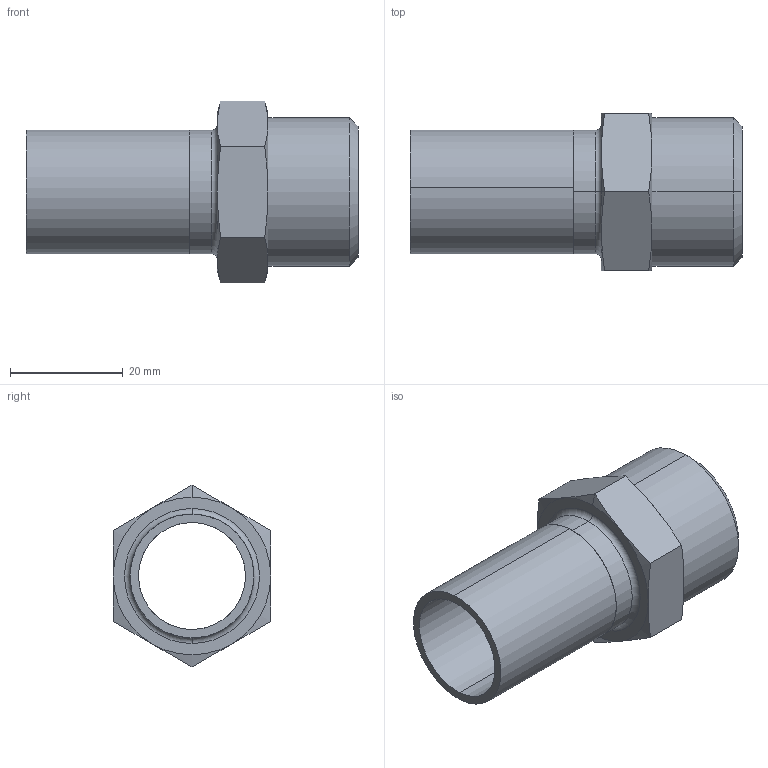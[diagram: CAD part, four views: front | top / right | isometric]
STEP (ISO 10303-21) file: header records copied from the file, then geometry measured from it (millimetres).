
FILE_DESCRIPTION (( 'STEP AP203' ), '1' );
FILE_NAME ('GDA6366.STEP', '2019-07-03T06:10:26', ( '' ), ( '' ), 'SwSTEP 2.0', 'SolidWorks 2015', '' );
FILE_SCHEMA (( 'CONFIG_CONTROL_DESIGN' ));
Length unit declared in the file: millimetre
Products named in the file (3): OD22｡ﾁ0.75; 眻奪22(酗30); GDA6366
Assembly tree (2 placements, depth 2):
  GDA6366
    OD22｡ﾁ0.75
    眻奪22(酗30)
Bounding box: 59 x 28 x 32.33 mm (x, y, z)
Volume: 10256.4 mm3; surface area: 8971.6 mm2
Topology: 2 solids, 2 shells, 44 faces, 92 edges, 54 vertices
Faces by surface type: cone 18, cylinder 12, plane 12, torus 2
Entity records: 1549 total; most frequent: CARTESIAN_POINT 315, DIRECTION 210, ORIENTED_EDGE 184, AXIS2_PLACEMENT_3D 93, EDGE_CURVE 92, VERTEX_POINT 54, EDGE_LOOP 50, ADVANCED_FACE 44
